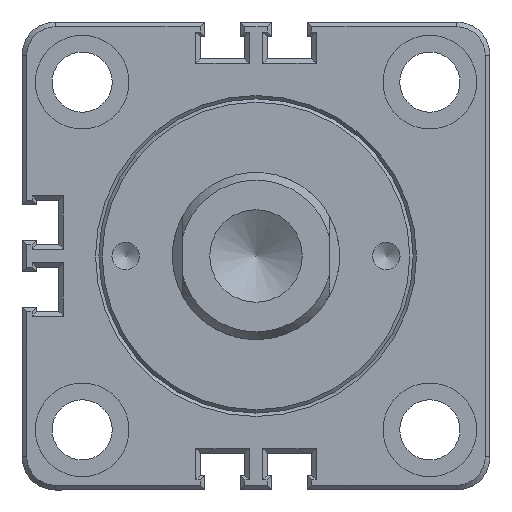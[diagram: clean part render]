
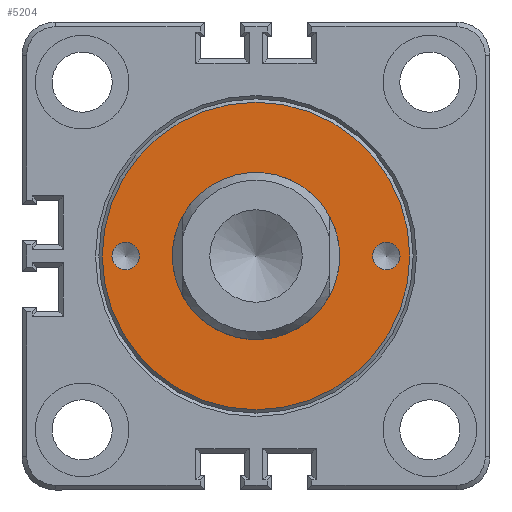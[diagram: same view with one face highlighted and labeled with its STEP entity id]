
A CAD part, front view. The second image highlights one B-rep face of the part: STEP entity #5204.
In plain terms, the highlighted planar face has unit normal (0, -1, 0).
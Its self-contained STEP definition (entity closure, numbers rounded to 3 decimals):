
#977=ORIENTED_EDGE('',*,*,#1932,.T.);
#978=ORIENTED_EDGE('',*,*,#1931,.F.);
#979=ORIENTED_EDGE('',*,*,#1930,.T.);
#980=ORIENTED_EDGE('',*,*,#1945,.T.);
#1930=EDGE_CURVE('',#2427,#2427,#2729,.T.);
#1931=EDGE_CURVE('',#2428,#2428,#2730,.T.);
#1932=EDGE_CURVE('',#2429,#2429,#2731,.T.);
#1945=EDGE_CURVE('',#2436,#2436,#2732,.T.);
#2427=VERTEX_POINT('',#6798);
#2428=VERTEX_POINT('',#6801);
#2429=VERTEX_POINT('',#6804);
#2436=VERTEX_POINT('',#6939);
#2729=CIRCLE('',#5454,2.05);
#2730=CIRCLE('',#5456,12.5);
#2731=CIRCLE('',#5458,2.05);
#2732=CIRCLE('',#5460,23.);
#2816=EDGE_LOOP('',(#977));
#2817=EDGE_LOOP('',(#978));
#2818=EDGE_LOOP('',(#979));
#2819=EDGE_LOOP('',(#980));
#3102=FACE_BOUND('',#2816,.T.);
#3103=FACE_BOUND('',#2817,.T.);
#3104=FACE_BOUND('',#2818,.T.);
#3105=FACE_BOUND('',#2819,.T.);
#3366=PLANE('',#5459);
#5204=ADVANCED_FACE('',(#3102,#3103,#3104,#3105),#3366,.T.);
#5454=AXIS2_PLACEMENT_3D('',#6797,#5796,#5797);
#5456=AXIS2_PLACEMENT_3D('',#6800,#5800,#5801);
#5458=AXIS2_PLACEMENT_3D('',#6803,#5804,#5805);
#5459=AXIS2_PLACEMENT_3D('',#6937,#5812,#5813);
#5460=AXIS2_PLACEMENT_3D('',#6938,#5814,#5815);
#5796=DIRECTION('',(0.,1.,0.));
#5797=DIRECTION('',(0.,0.,-1.));
#5800=DIRECTION('',(0.,-1.,0.));
#5801=DIRECTION('',(1.,0.,0.));
#5804=DIRECTION('',(0.,1.,0.));
#5805=DIRECTION('',(0.,0.,-1.));
#5812=DIRECTION('',(0.,-1.,0.));
#5813=DIRECTION('',(1.,0.,0.));
#5814=DIRECTION('',(0.,-1.,0.));
#5815=DIRECTION('',(0.,0.,-1.));
#6797=CARTESIAN_POINT('',(-19.5,-0.018,0.));
#6798=CARTESIAN_POINT('',(-19.5,-0.018,-2.05));
#6800=CARTESIAN_POINT('',(0.,-0.018,0.));
#6801=CARTESIAN_POINT('',(12.5,-0.018,0.));
#6803=CARTESIAN_POINT('',(19.5,-0.018,0.));
#6804=CARTESIAN_POINT('',(19.5,-0.018,-2.05));
#6937=CARTESIAN_POINT('',(-30.,-0.018,30.));
#6938=CARTESIAN_POINT('',(0.,-0.018,0.));
#6939=CARTESIAN_POINT('',(0.,-0.018,-23.));
